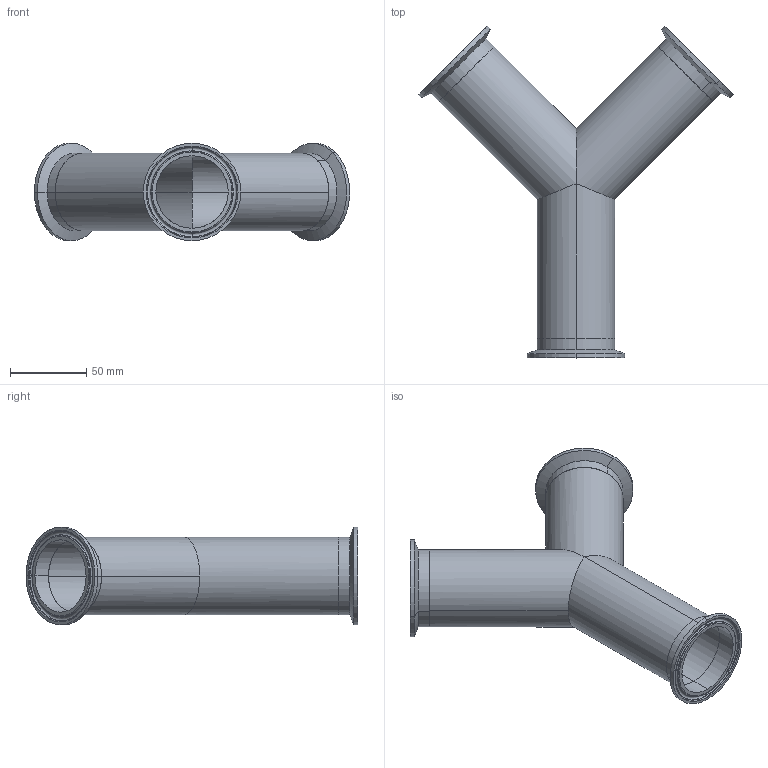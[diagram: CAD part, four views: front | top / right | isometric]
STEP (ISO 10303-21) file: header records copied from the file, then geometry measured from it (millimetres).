
FILE_DESCRIPTION (( 'STEP AP203' ), '1' );
FILE_NAME ('EG28B 2.0.STEP', '2021-10-08T19:20:51', ( '' ), ( '' ), 'SwSTEP 2.0', 'SolidWorks 2021', '' );
FILE_SCHEMA (( 'CONFIG_CONTROL_DESIGN' ));
Length unit declared in the file: inch
Products named in the file (3): EG2CS2.0; EG28B 2.0; V28WB2.0
Assembly tree (4 placements, depth 2):
  EG28B 2.0
    V28WB2.0
    EG2CS2.0  x3
Bounding box: 206.78 x 217.72 x 63.91 mm (x, y, z)
Volume: 92405.6 mm3; surface area: 106663.7 mm2
Topology: 4 solids, 4 shells, 78 faces, 162 edges, 94 vertices
Faces by surface type: cylinder 30, cone 18, torus 18, plane 12
Entity records: 1367 total; most frequent: CARTESIAN_POINT 203, DIRECTION 194, ORIENTED_EDGE 156, AXIS2_PLACEMENT_3D 85, EDGE_CURVE 78, VERTEX_POINT 46, CIRCLE 42, EDGE_LOOP 42
